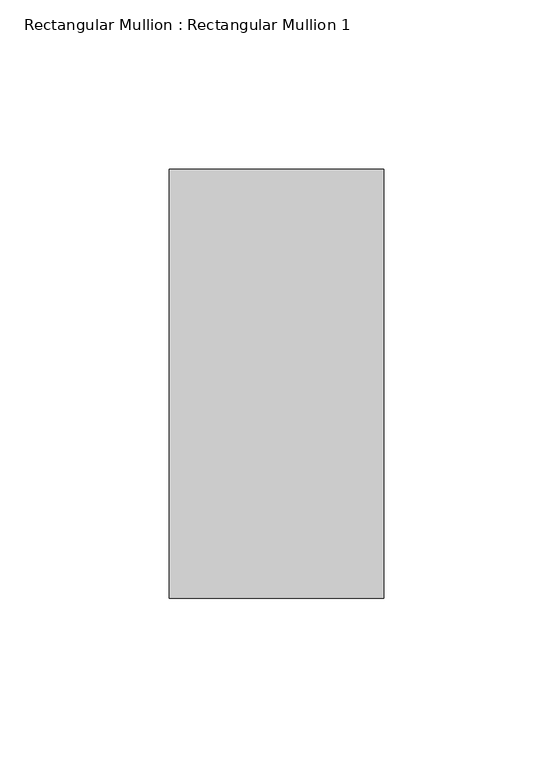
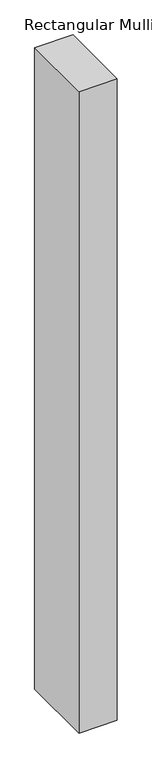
"""IFC4 building model written with IfcOpenShell, lengths in millimetres: member geometry, Rectangular Mullion : Rectangular Mullion 1."""

from ifc_helpers import new_model, si_unit, frame, origin, place, context, project, spatial, polyline, outline, extrude, source, transform, mapped, element, save


def rectangular_mullion_rectangular_mullion_1_6d278577(model_context):
    return source(origin(), model_context, "Body", "SweptSolid", [
        extrude(outline(polyline([(0.0, 63.5), (0.0, -63.5), (-63.5, -63.5), (-63.5, 63.5), (0.0, 63.5)])), frame((0.0, 0.0, -1124.5702178), z_axis=(0.0, 0.0, 1.0), x_axis=(1.0, 0.0, 0.0)), (0.0, 0.0, 1.0), 1124.5702178),
    ])


if __name__ == "__main__":
    model = new_model("IFC4")
    model_context = context("Model", 3, world=origin())
    ifc_project = project(units=[si_unit("LENGTHUNIT", "METRE", prefix="MILLI")], contexts=[model_context])
    site = spatial("IfcSite", under=ifc_project)
    building = spatial("IfcBuilding", under=site)
    placement = place(None, origin())
    rectangular_mullion_rectangular_mullion_1_shape = rectangular_mullion_rectangular_mullion_1_6d278577(model_context)
    element("IfcMember", 1, ObjectType="Rectangular Mullion : Rectangular Mullion 1", at=placement, inside=building, context=model_context, shape_type="MappedRepresentation", body=[
        mapped(rectangular_mullion_rectangular_mullion_1_shape, transform((0.0, 0.0, 0.0), x_axis=(1.0, 0.0, 0.0), y_axis=(0.0, 1.0, 0.0), z_axis=(0.0, 0.0, 1.0))),
    ])
    save(model, "model.ifc")
